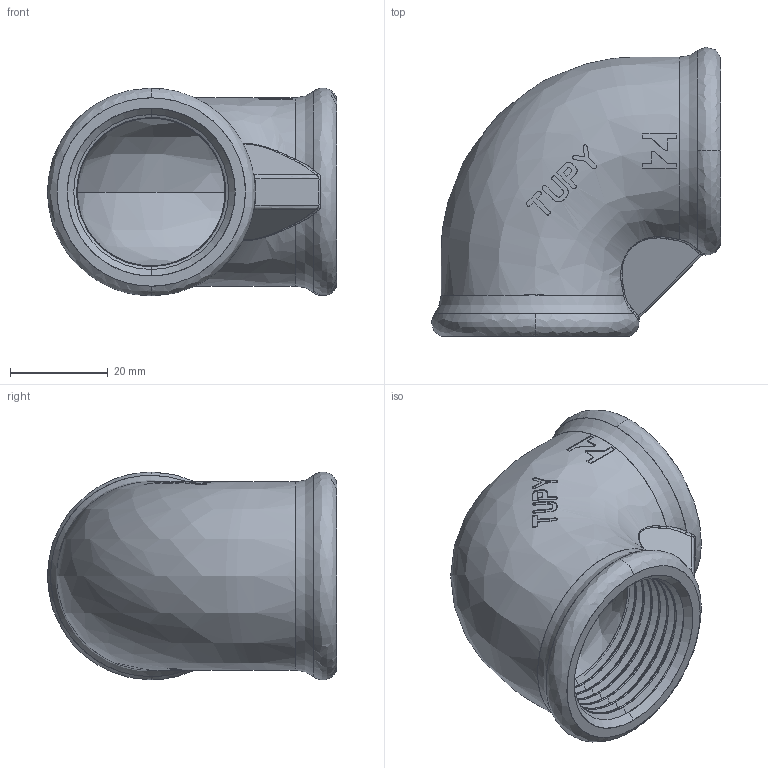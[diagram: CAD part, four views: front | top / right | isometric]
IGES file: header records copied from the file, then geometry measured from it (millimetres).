
Start section: SolidWorks IGES file using analytic representation for surfaces
Global section: file name: C:\Users\Joel Rosa\Desktop\Tubulação\12-07-OK\12-07-007.IGS; native system: SolidWorks 2011; preprocessor: SolidWorks 2011; author: Joel Rosa; date: 121204.003651; units: millimetre
Bounding box: 59.29 x 59.29 x 42.6 mm (x, y, z)
Surface area: 18531.3 mm2 (no closed solid volume)
Topology: 0 solids, 0 shells, 267 faces, 2742 edges, 2742 vertices
Faces by surface type: bspline 199, revolution 68
